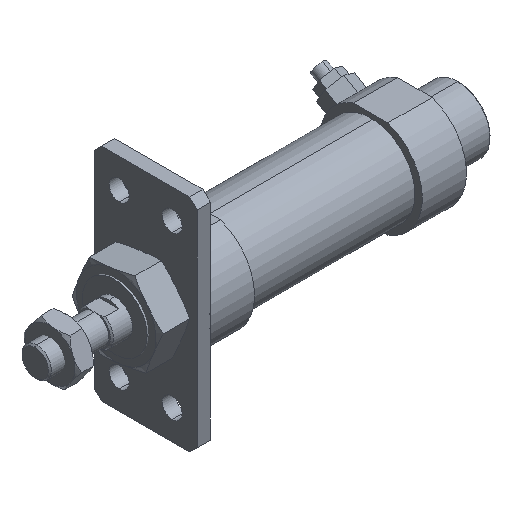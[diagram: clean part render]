
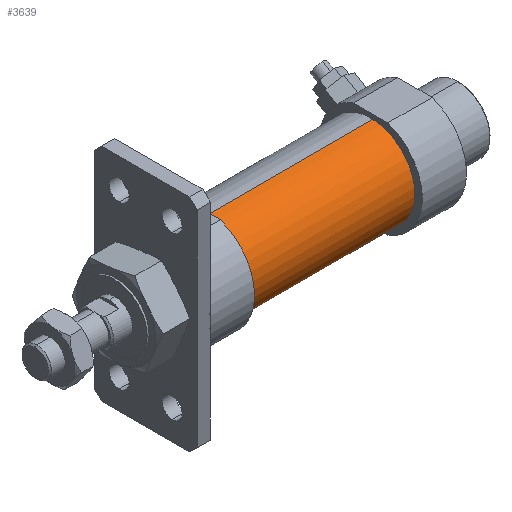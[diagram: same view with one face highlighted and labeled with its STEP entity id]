
A CAD part, isometric view. The second image highlights one B-rep face of the part: STEP entity #3639.
In plain terms, the highlighted cylindrical face has radius 15 mm (diameter 30 mm), a partial arc.
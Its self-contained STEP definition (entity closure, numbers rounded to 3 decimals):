
#66 = ORIENTED_EDGE ( 'NONE', *, *, #346, .T. ) ;
#321 = VERTEX_POINT ( 'NONE', #2677 ) ;
#346 = EDGE_CURVE ( 'NONE', #321, #1313, #5158, .T. ) ;
#566 = CARTESIAN_POINT ( 'NONE',  ( 28.5, 0., -15. ) ) ;
#790 = DIRECTION ( 'NONE',  ( -1., 0., 0. ) ) ;
#798 = DIRECTION ( 'NONE',  ( -1., 0., 0. ) ) ;
#929 = AXIS2_PLACEMENT_3D ( 'NONE', #2652, #3818, #1421 ) ;
#968 = LINE ( 'NONE', #3081, #4653 ) ;
#1313 = VERTEX_POINT ( 'NONE', #2387 ) ;
#1421 = DIRECTION ( 'NONE',  ( 0., 0., -1. ) ) ;
#1473 = ORIENTED_EDGE ( 'NONE', *, *, #4465, .F. ) ;
#1563 = FACE_OUTER_BOUND ( 'NONE', #3061, .T. ) ;
#1610 = EDGE_CURVE ( 'NONE', #2144, #2486, #968, .T. ) ;
#1908 = CARTESIAN_POINT ( 'NONE',  ( -28.5, 0., -15. ) ) ;
#2144 = VERTEX_POINT ( 'NONE', #566 ) ;
#2206 = DIRECTION ( 'NONE',  ( 1., 0., 0. ) ) ;
#2264 = CARTESIAN_POINT ( 'NONE',  ( 28.5, 0., 0. ) ) ;
#2387 = CARTESIAN_POINT ( 'NONE',  ( -28.5, 0., 15. ) ) ;
#2486 = VERTEX_POINT ( 'NONE', #1908 ) ;
#2508 = AXIS2_PLACEMENT_3D ( 'NONE', #2264, #790, #5433 ) ;
#2652 = CARTESIAN_POINT ( 'NONE',  ( 28.5, 0., 0. ) ) ;
#2677 = CARTESIAN_POINT ( 'NONE',  ( 28.5, 0., 15. ) ) ;
#2708 = CIRCLE ( 'NONE', #929, 15. ) ;
#2884 = ORIENTED_EDGE ( 'NONE', *, *, #1610, .F. ) ;
#3061 = EDGE_LOOP ( 'NONE', ( #2884, #1473, #66, #5507 ) ) ;
#3081 = CARTESIAN_POINT ( 'NONE',  ( 28.5, 0., -15. ) ) ;
#3507 = EDGE_CURVE ( 'NONE', #1313, #2486, #5233, .T. ) ;
#3639 = ADVANCED_FACE ( 'NONE', ( #1563 ), #4678, .T. ) ;
#3796 = CARTESIAN_POINT ( 'NONE',  ( 28.5, 0., 15. ) ) ;
#3818 = DIRECTION ( 'NONE',  ( 1., 0., 0. ) ) ;
#4066 = DIRECTION ( 'NONE',  ( -1., 0., 0. ) ) ;
#4465 = EDGE_CURVE ( 'NONE', #321, #2144, #2708, .T. ) ;
#4653 = VECTOR ( 'NONE', #798, 1000. ) ;
#4678 = CYLINDRICAL_SURFACE ( 'NONE', #2508, 15. ) ;
#5090 = DIRECTION ( 'NONE',  ( 0., 0., -1. ) ) ;
#5123 = AXIS2_PLACEMENT_3D ( 'NONE', #5382, #2206, #5090 ) ;
#5158 = LINE ( 'NONE', #3796, #5510 ) ;
#5233 = CIRCLE ( 'NONE', #5123, 15. ) ;
#5382 = CARTESIAN_POINT ( 'NONE',  ( -28.5, 0., 0. ) ) ;
#5433 = DIRECTION ( 'NONE',  ( 0., 0., 1. ) ) ;
#5507 = ORIENTED_EDGE ( 'NONE', *, *, #3507, .T. ) ;
#5510 = VECTOR ( 'NONE', #4066, 1000. ) ;
